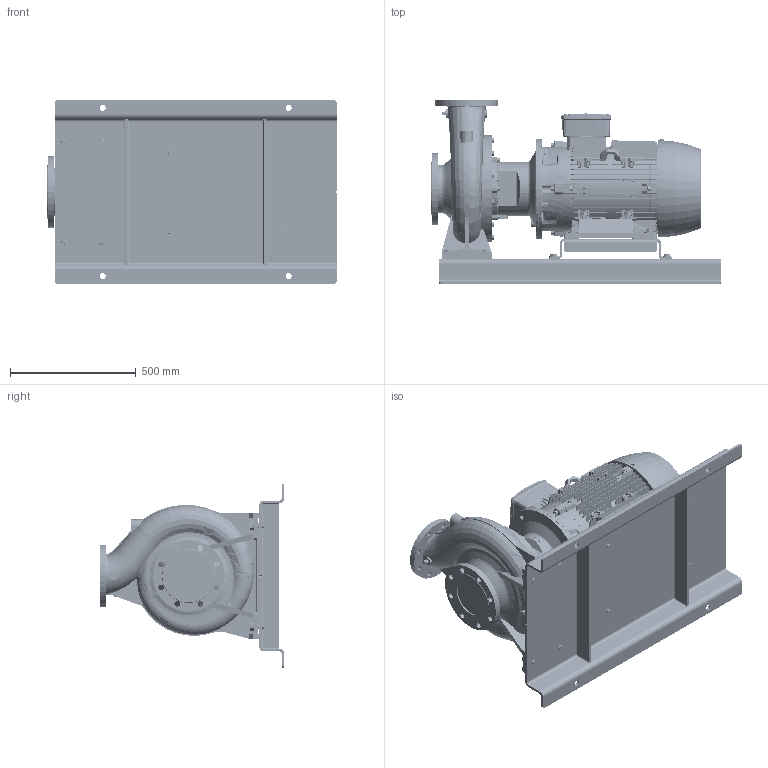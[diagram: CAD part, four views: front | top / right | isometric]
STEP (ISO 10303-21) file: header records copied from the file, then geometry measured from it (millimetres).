
FILE_DESCRIPTION (( 'STEP AP214' ), '1' );
FILE_NAME ('GSD4 125-315_30_(200ML)_W21_BP.STEP', '2026-05-08T03:50:23', ( '' ), ( '' ), 'SwSTEP 2.0', 'SolidWorks 2024', '' );
FILE_SCHEMA (( 'AUTOMOTIVE_DESIGN' ));
Products named in the file (13): Parametric bolt and washer_SFT-A359B; Parametric Flat Washer_M16; Parametric Flat Washer_M20; GSD4 125-315_30_(200ML)_W21_BP; 125-315-200M_L_ﾃﾞﾌｫﾙﾄ; N9S4 GSDA-94B F1-1832970-00; Parametric bolt and washer_SFT-A403B; CGS11-5273; Parametric bolt and washer_SFT-A351B; Parametric bolt_SFT-A351B; Parametric bolt_SFT-A359B; Parametric bolt_SFT-A403B; 200M_L ALIE3_W21T_B35
Assembly tree (22 placements, depth 3):
  GSD4 125-315_30_(200ML)_W21_BP
    125-315-200M_L_ﾃﾞﾌｫﾙﾄ
    N9S4 GSDA-94B F1-1832970-00
    CGS11-5273
    Parametric bolt and washer_SFT-A403B  x4
      Parametric bolt_SFT-A403B
      Parametric Flat Washer_M20
    Parametric bolt and washer_SFT-A351B  x4
      Parametric bolt_SFT-A351B
      Parametric Flat Washer_M16
    Parametric bolt and washer_SFT-A359B  x4
      Parametric bolt_SFT-A359B
      Parametric Flat Washer_M16
    200M_L ALIE3_W21T_B35
Bounding box: 1150 x 735 x 730 mm (x, y, z)
Volume: 118241471.7 mm3; surface area: 7393890.7 mm2
Topology: 54 solids, 64 shells, 7526 faces, 19446 edges, 12509 vertices
Faces by surface type: plane 4351, cylinder 1449, bspline 941, cone 622, torus 163
Entity records: 291385 total; most frequent: CARTESIAN_POINT 132484, ORIENTED_EDGE 35424, DIRECTION 28660, EDGE_CURVE 17712, VERTEX_POINT 11438, VECTOR 11006, LINE 11006, AXIS2_PLACEMENT_3D 8827
